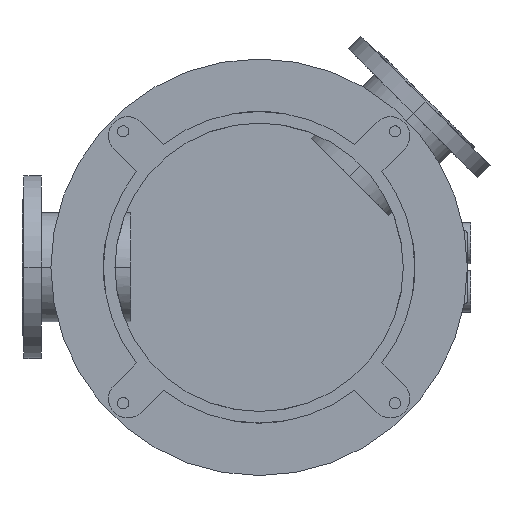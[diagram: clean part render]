
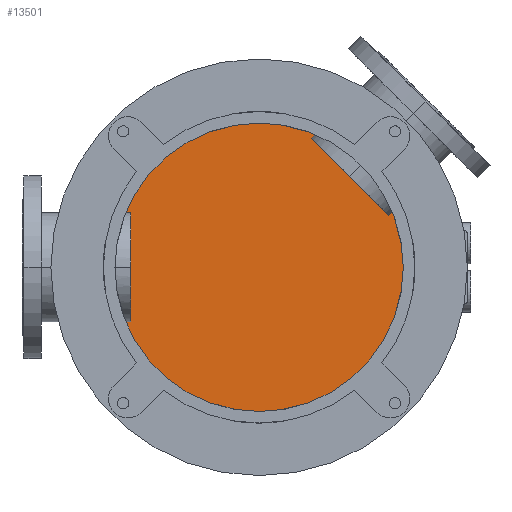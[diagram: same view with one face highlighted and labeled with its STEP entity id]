
A CAD part, front view. The second image highlights one B-rep face of the part: STEP entity #13501.
In plain terms, the highlighted planar face has unit normal (0, -1, 0).
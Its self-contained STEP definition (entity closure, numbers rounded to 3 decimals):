
#2816=CARTESIAN_POINT('',(0.,500.,0.));
#2817=DIRECTION('',(0.,-1.,0.));
#2818=DIRECTION('',(0.,0.,1.));
#2819=AXIS2_PLACEMENT_3D('',#2816,#2817,#2818);
#2949=CARTESIAN_POINT('',(0.,500.,0.));
#2950=DIRECTION('',(0.,-1.,0.));
#2951=DIRECTION('',(0.,0.,-1.));
#2952=AXIS2_PLACEMENT_3D('',#2949,#2950,#2951);
#8646=CARTESIAN_POINT('',(0.,500.,240.));
#8647=CARTESIAN_POINT('',(0.,500.,-240.));
#8648=VERTEX_POINT('',#8646);
#8649=VERTEX_POINT('',#8647);
#13491=CARTESIAN_POINT('',(0.,500.,0.));
#13492=DIRECTION('',(0.,1.,0.));
#13493=DIRECTION('',(0.,0.,-1.));
#13494=AXIS2_PLACEMENT_3D('',#13491,#13492,#13493);
#13495=PLANE('',#13494);
#13496=ORIENTED_EDGE('',*,*,#13475,.F.);
#13498=ORIENTED_EDGE('',*,*,#13497,.F.);
#13499=EDGE_LOOP('',(#13496,#13498));
#13500=FACE_OUTER_BOUND('',#13499,.F.);
#13501=ADVANCED_FACE('',(#13500),#13495,.F.);
#2820=CIRCLE('',#2819,240.);
#2953=CIRCLE('',#2952,240.);
#13475=EDGE_CURVE('',#8648,#8649,#2820,.T.);
#13497=EDGE_CURVE('',#8649,#8648,#2953,.T.);
